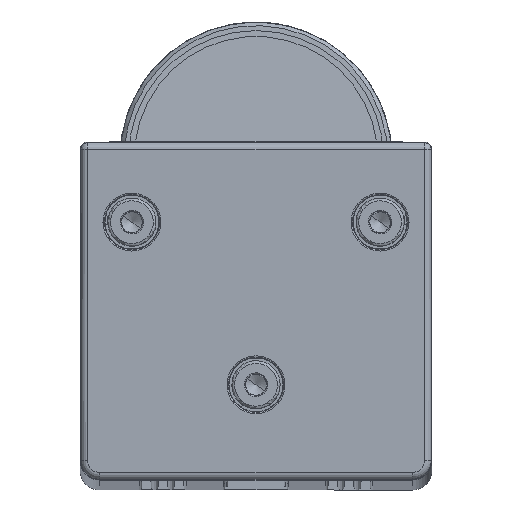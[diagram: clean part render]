
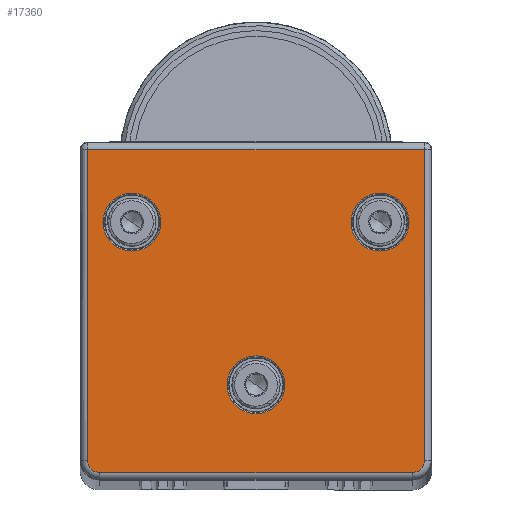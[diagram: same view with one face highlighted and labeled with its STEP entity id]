
A CAD part, top view. The second image highlights one B-rep face of the part: STEP entity #17360.
In plain terms, the highlighted planar face has unit normal (0, 0, 1).
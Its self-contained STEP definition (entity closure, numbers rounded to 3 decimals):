
#196 = EDGE_LOOP ( 'NONE', ( #16411, #14246 ) ) ;
#199 = AXIS2_PLACEMENT_3D ( 'NONE', #6456, #14111, #21771 ) ;
#257 = EDGE_CURVE ( 'NONE', #21481, #3102, #8218, .T. ) ;
#476 = EDGE_CURVE ( 'NONE', #6221, #9600, #15379, .T. ) ;
#481 = VECTOR ( 'NONE', #24523, 1000. ) ;
#600 = VERTEX_POINT ( 'NONE', #8909 ) ;
#937 = VECTOR ( 'NONE', #14375, 1000. ) ;
#1247 = CIRCLE ( 'NONE', #17687, 4.197 ) ;
#1439 = DIRECTION ( 'NONE',  ( -1., 0., 0. ) ) ;
#1672 = VECTOR ( 'NONE', #6824, 1000. ) ;
#1676 = CARTESIAN_POINT ( 'NONE',  ( -22.7, 2.7, 0. ) ) ;
#1984 = CIRCLE ( 'NONE', #18855, 4.197 ) ;
#2108 = VERTEX_POINT ( 'NONE', #19327 ) ;
#2220 = CARTESIAN_POINT ( 'NONE',  ( -18., 37.302, 0. ) ) ;
#2683 = EDGE_CURVE ( 'NONE', #2108, #11592, #11886, .T. ) ;
#2932 = EDGE_CURVE ( 'NONE', #9600, #19196, #24417, .T. ) ;
#3073 = LINE ( 'NONE', #16850, #481 ) ;
#3102 = VERTEX_POINT ( 'NONE', #19028 ) ;
#3139 = ORIENTED_EDGE ( 'NONE', *, *, #476, .T. ) ;
#3378 = DIRECTION ( 'NONE',  ( -1., 0., 0. ) ) ;
#3523 = CARTESIAN_POINT ( 'NONE',  ( 22.7, 0.983, 0. ) ) ;
#3576 = DIRECTION ( 'NONE',  ( 0., 0., -1. ) ) ;
#3774 = VERTEX_POINT ( 'NONE', #4247 ) ;
#3939 = DIRECTION ( 'NONE',  ( 0., 0., -1. ) ) ;
#4247 = CARTESIAN_POINT ( 'NONE',  ( 22.197, 37.302, 0. ) ) ;
#4449 = CARTESIAN_POINT ( 'NONE',  ( 24.417, 2.7, 0. ) ) ;
#4582 = VERTEX_POINT ( 'NONE', #4449 ) ;
#4747 = EDGE_LOOP ( 'NONE', ( #22052, #12634, #9749, #21254, #3139, #16370 ) ) ;
#5043 = EDGE_CURVE ( 'NONE', #600, #5591, #14440, .T. ) ;
#5158 = CARTESIAN_POINT ( 'NONE',  ( -24.417, 2.7, 0. ) ) ;
#5330 = CARTESIAN_POINT ( 'NONE',  ( 22.7, 0.983, 0. ) ) ;
#5338 = CARTESIAN_POINT ( 'NONE',  ( 4.197, 13.712, 0. ) ) ;
#5433 = CARTESIAN_POINT ( 'NONE',  ( 18., 37.302, 0. ) ) ;
#5591 = VERTEX_POINT ( 'NONE', #9499 ) ;
#5875 = VERTEX_POINT ( 'NONE', #20646 ) ;
#6221 = VERTEX_POINT ( 'NONE', #5158 ) ;
#6300 = CARTESIAN_POINT ( 'NONE',  ( -22.7, 2.7, 0. ) ) ;
#6443 = CARTESIAN_POINT ( 'NONE',  ( -18., 37.302, 0. ) ) ;
#6456 = CARTESIAN_POINT ( 'NONE',  ( 0., 13.712, 0. ) ) ;
#6824 = DIRECTION ( 'NONE',  ( 0., 1., 0. ) ) ;
#7314 = CIRCLE ( 'NONE', #18544, 1.717 ) ;
#7463 = CIRCLE ( 'NONE', #18290, 4.197 ) ;
#7567 = DIRECTION ( 'NONE',  ( -1., 0., 0. ) ) ;
#8121 = ORIENTED_EDGE ( 'NONE', *, *, #8844, .T. ) ;
#8218 = CIRCLE ( 'NONE', #199, 4.197 ) ;
#8532 = EDGE_CURVE ( 'NONE', #19196, #4582, #7314, .T. ) ;
#8616 = EDGE_CURVE ( 'NONE', #4582, #600, #20013, .T. ) ;
#8772 = EDGE_CURVE ( 'NONE', #5591, #6221, #3073, .T. ) ;
#8844 = EDGE_CURVE ( 'NONE', #3102, #21481, #14918, .T. ) ;
#8909 = CARTESIAN_POINT ( 'NONE',  ( 24.417, 47.817, 0. ) ) ;
#9499 = CARTESIAN_POINT ( 'NONE',  ( -24.417, 47.817, 0. ) ) ;
#9600 = VERTEX_POINT ( 'NONE', #10789 ) ;
#9749 = ORIENTED_EDGE ( 'NONE', *, *, #5043, .T. ) ;
#9782 = AXIS2_PLACEMENT_3D ( 'NONE', #6300, #17703, #19974 ) ;
#9890 = DIRECTION ( 'NONE',  ( 0., 0., -1. ) ) ;
#10291 = ORIENTED_EDGE ( 'NONE', *, *, #21567, .T. ) ;
#10340 = DIRECTION ( 'NONE',  ( 0., 0., -1. ) ) ;
#10697 = CARTESIAN_POINT ( 'NONE',  ( -24.5, 47.817, 0. ) ) ;
#10789 = CARTESIAN_POINT ( 'NONE',  ( -22.7, 0.983, 0. ) ) ;
#11019 = VECTOR ( 'NONE', #24378, 1000. ) ;
#11592 = VERTEX_POINT ( 'NONE', #12981 ) ;
#11629 = EDGE_CURVE ( 'NONE', #3774, #5875, #1984, .T. ) ;
#11886 = CIRCLE ( 'NONE', #13919, 4.197 ) ;
#12634 = ORIENTED_EDGE ( 'NONE', *, *, #8616, .T. ) ;
#12708 = DIRECTION ( 'NONE',  ( -1., 0., 0. ) ) ;
#12981 = CARTESIAN_POINT ( 'NONE',  ( -13.803, 37.302, 0. ) ) ;
#12996 = FACE_OUTER_BOUND ( 'NONE', #4747, .T. ) ;
#13015 = EDGE_LOOP ( 'NONE', ( #8121, #21614 ) ) ;
#13225 = CARTESIAN_POINT ( 'NONE',  ( 18., 37.302, 0. ) ) ;
#13835 = AXIS2_PLACEMENT_3D ( 'NONE', #1676, #3576, #1439 ) ;
#13876 = CARTESIAN_POINT ( 'NONE',  ( 22.7, 2.7, 0. ) ) ;
#13919 = AXIS2_PLACEMENT_3D ( 'NONE', #2220, #9890, #17537 ) ;
#14111 = DIRECTION ( 'NONE',  ( 0., 0., -1. ) ) ;
#14246 = ORIENTED_EDGE ( 'NONE', *, *, #14694, .T. ) ;
#14375 = DIRECTION ( 'NONE',  ( 1., 0., 0. ) ) ;
#14440 = LINE ( 'NONE', #10697, #11019 ) ;
#14694 = EDGE_CURVE ( 'NONE', #11592, #2108, #7463, .T. ) ;
#14860 = FACE_BOUND ( 'NONE', #23321, .T. ) ;
#14918 = CIRCLE ( 'NONE', #18935, 4.197 ) ;
#14952 = DIRECTION ( 'NONE',  ( 0., 0., -1. ) ) ;
#15379 = CIRCLE ( 'NONE', #9782, 1.717 ) ;
#16370 = ORIENTED_EDGE ( 'NONE', *, *, #2932, .T. ) ;
#16411 = ORIENTED_EDGE ( 'NONE', *, *, #2683, .T. ) ;
#16612 = DIRECTION ( 'NONE',  ( 0., 0., -1. ) ) ;
#16629 = FACE_BOUND ( 'NONE', #13015, .T. ) ;
#16850 = CARTESIAN_POINT ( 'NONE',  ( -24.417, 2.7, 0. ) ) ;
#17257 = DIRECTION ( 'NONE',  ( 0., 0., 1. ) ) ;
#17360 = ADVANCED_FACE ( 'NONE', ( #16629, #18663, #14860, #12996 ), #20780, .F. ) ;
#17537 = DIRECTION ( 'NONE',  ( -1., 0., 0. ) ) ;
#17687 = AXIS2_PLACEMENT_3D ( 'NONE', #5433, #14952, #12708 ) ;
#17703 = DIRECTION ( 'NONE',  ( 0., 0., 1. ) ) ;
#17992 = DIRECTION ( 'NONE',  ( -1., 0., 0. ) ) ;
#18290 = AXIS2_PLACEMENT_3D ( 'NONE', #6443, #10340, #17992 ) ;
#18544 = AXIS2_PLACEMENT_3D ( 'NONE', #13876, #17257, #3378 ) ;
#18663 = FACE_BOUND ( 'NONE', #196, .T. ) ;
#18855 = AXIS2_PLACEMENT_3D ( 'NONE', #13225, #16612, #20882 ) ;
#18935 = AXIS2_PLACEMENT_3D ( 'NONE', #20878, #3939, #7567 ) ;
#19028 = CARTESIAN_POINT ( 'NONE',  ( -4.197, 13.712, 0. ) ) ;
#19196 = VERTEX_POINT ( 'NONE', #3523 ) ;
#19327 = CARTESIAN_POINT ( 'NONE',  ( -22.197, 37.302, 0. ) ) ;
#19974 = DIRECTION ( 'NONE',  ( -1., 0., 0. ) ) ;
#20013 = LINE ( 'NONE', #21909, #1672 ) ;
#20646 = CARTESIAN_POINT ( 'NONE',  ( 13.803, 37.302, 0. ) ) ;
#20780 = PLANE ( 'NONE',  #13835 ) ;
#20878 = CARTESIAN_POINT ( 'NONE',  ( 0., 13.712, 0. ) ) ;
#20882 = DIRECTION ( 'NONE',  ( -1., 0., 0. ) ) ;
#21254 = ORIENTED_EDGE ( 'NONE', *, *, #8772, .T. ) ;
#21481 = VERTEX_POINT ( 'NONE', #5338 ) ;
#21567 = EDGE_CURVE ( 'NONE', #5875, #3774, #1247, .T. ) ;
#21614 = ORIENTED_EDGE ( 'NONE', *, *, #257, .T. ) ;
#21771 = DIRECTION ( 'NONE',  ( -1., 0., 0. ) ) ;
#21909 = CARTESIAN_POINT ( 'NONE',  ( 24.417, 47.9, 0. ) ) ;
#22052 = ORIENTED_EDGE ( 'NONE', *, *, #8532, .T. ) ;
#23321 = EDGE_LOOP ( 'NONE', ( #10291, #24056 ) ) ;
#24056 = ORIENTED_EDGE ( 'NONE', *, *, #11629, .T. ) ;
#24378 = DIRECTION ( 'NONE',  ( -1., 0., 0. ) ) ;
#24417 = LINE ( 'NONE', #5330, #937 ) ;
#24523 = DIRECTION ( 'NONE',  ( 0., -1., 0. ) ) ;
